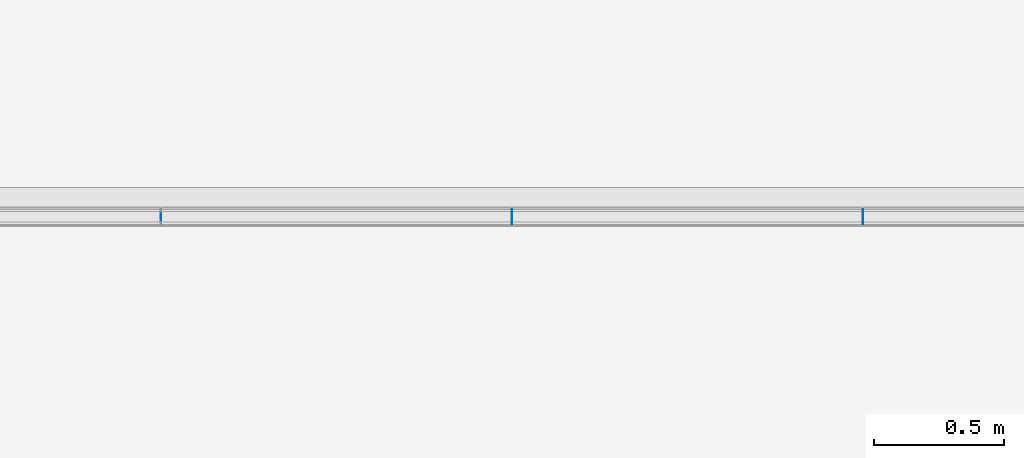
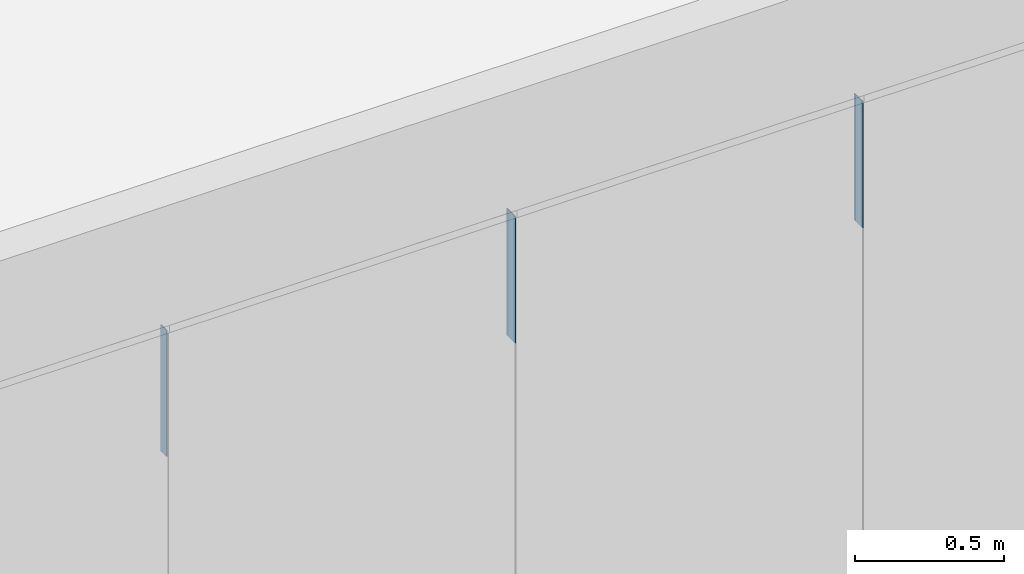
# One storey, part 31 of 89: 5 building element parts, 4 elements without a shape of their own.
"""IFC2X3 building model written with IfcOpenShell, lengths in millimetres."""

from ifc_helpers import new_model, entity, si_unit, converted_unit, derived_unit, money_unit, direction, frame, origin_with_axes, place, context, subcontext, project, spatial, faceted_brep, source, transform, mapped, material, type_object, element, aggregate, save


model = new_model("IFC2X3")

# Units and contexts
model_context = context("Model", 3, precision=0.01, world=origin_with_axes(), true_north=direction((0.0, 1.0)))
body_context = subcontext(model_context, "Body", "Model", "MODEL_VIEW")
ifc_project = project(units=[si_unit("LENGTHUNIT", "METRE", prefix="MILLI"), si_unit("AREAUNIT", "SQUARE_METRE"), si_unit("VOLUMEUNIT", "CUBIC_METRE"), converted_unit("PLANEANGLEUNIT", "DEGREE", entity("IfcPlaneAngleMeasure", 0.0174532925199), si_unit("PLANEANGLEUNIT", "RADIAN"), dimensions=[0, 0, 0, 0, 0, 0, 0]), si_unit("SOLIDANGLEUNIT", "STERADIAN"), money_unit("EUR"), converted_unit("TIMEUNIT", "Year", entity("IfcTimeMeasure", 31556926.0), si_unit("TIMEUNIT", "SECOND"), dimensions=[0, 0, 1, 0, 0, 0, 0]), si_unit("MASSUNIT", "GRAM", prefix="KILO"), si_unit("THERMODYNAMICTEMPERATUREUNIT", "DEGREE_CELSIUS"), si_unit("LUMINOUSINTENSITYUNIT", "LUMEN"), si_unit("ENERGYUNIT", "JOULE", prefix="MEGA"), derived_unit("THERMALCONDUCTANCEUNIT", [(si_unit("POWERUNIT", "WATT"), 1), (si_unit("LENGTHUNIT", "METRE"), -1), (si_unit("THERMODYNAMICTEMPERATUREUNIT", "KELVIN"), -1)]), derived_unit("SPECIFICHEATCAPACITYUNIT", [(si_unit("ENERGYUNIT", "JOULE"), 1), (si_unit("MASSUNIT", "GRAM", prefix="KILO"), -1), (si_unit("THERMODYNAMICTEMPERATUREUNIT", "KELVIN"), -1)]), derived_unit("MASSDENSITYUNIT", [(si_unit("MASSUNIT", "GRAM", prefix="KILO"), 1), (si_unit("VOLUMEUNIT", "CUBIC_METRE"), -1)])], contexts=[model_context])

# Site, building, storey
site_placement = place(None, origin_with_axes())
site = spatial("IfcSite", under=ifc_project, at=site_placement, Name="Puškini 31, Narva", CompositionType="ELEMENT")
building_placement = place(site_placement, origin_with_axes())
building = spatial("IfcBuilding", under=site, at=building_placement, Name="Narva Riigigümnaasium", CompositionType="ELEMENT")
storey_placement = place(building_placement, frame((0.0, 0.0, -3300.0), z_axis=(0.0, 0.0, 1.0), x_axis=(1.0, 0.0, 0.0)))
storey = spatial("IfcBuildingStorey", under=building, at=storey_placement, Name="1.korrus -3.3", CompositionType="ELEMENT", Elevation=-3300.0)

# Curtain wall, members, building element parts
curtain_wall_type = type_object("IfcCurtainWallType", Name="Curtain Wall Type", PredefinedType="NOTDEFINED")
curtain_wall_placement = place(storey_placement, frame((40014.000008, 243997.000057, -9.155864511e-06), z_axis=(0.0, 0.0, 1.0), x_axis=(1.0, 0.0, 0.0)))
curtain_wall = element("IfcCurtainWall", 1, at=curtain_wall_placement, inside=storey, type_object=curtain_wall_type, Name="G-SKLF-09")
member_type = type_object("IfcMemberType", Name="3 x 19", PredefinedType="MULLION")
member_1_placement = place(curtain_wall_placement, frame((2113.99999221, 0.0, 2400.00000716), z_axis=(0.0, 0.0, 1.0), x_axis=(-1.0, 0.0, 0.0)))
member_1 = element("IfcMember", 2, at=member_1_placement, type_object=member_type, Name="G-SKLF-09-raam", ObjectType="MULLION")
ifc_material_1 = material(Name="Klaas")
shared_shape_1 = source(origin_with_axes(), body_context, "Body", "Brep", [
    faceted_brep([(1.4999861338, 20.0064497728, 0.0), (1.4999861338, 20.0064497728, 519.999980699), (-1.5000138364, 20.0064497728, 519.999980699), (-1.5000138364, 20.0064497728, 0.0), (1.4999861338, 29.0064496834, 0.0), (1.4999861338, 29.0064496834, 519.999980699), (-1.5000138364, 29.0064496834, 519.999980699), (-1.5000138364, 29.0064496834, 0.0)], [[[0, 1, 2, 3]], [[4, 5, 1, 0]], [[1, 5, 6, 2]], [[3, 2, 6, 7]], [[0, 3, 7, 4]], [[7, 6, 5, 4]]]),
    faceted_brep([(1.4999861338, -19.993550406, 0.0), (1.4999861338, -19.993550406, 519.999980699), (1.4999861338, -28.9935503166, 519.999980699), (1.4999861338, -28.9935503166, 0.0), (-1.5000138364, -19.993550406, 0.0), (-1.5000138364, -19.993550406, 519.999980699), (-1.5000138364, -28.9935503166, 519.999980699), (-1.5000138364, -28.9935503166, 0.0)], [[[0, 1, 2, 3]], [[4, 5, 1, 0]], [[1, 5, 6, 2]], [[3, 2, 6, 7]], [[0, 3, 7, 4]], [[7, 6, 5, 4]]]),
])
building_element_part_1_placement = place(member_1_placement, origin_with_axes())
building_element_part_1 = element("IfcBuildingElementPart", 3, at=building_element_part_1_placement, material=ifc_material_1, Name="Klaas", context=body_context, shape_type="MappedRepresentation", body=[
    mapped(shared_shape_1, transform((0.0, 0.0, 0.0), x_axis=(-1.0, 0.0, 0.0), y_axis=(0.0, -1.0, 0.0), z_axis=(0.0, 0.0, 1.0))),
])
member_2_placement = place(curtain_wall_placement, frame((3463.99999221, 0.0, 2400.00000716), z_axis=(0.0, 0.0, 1.0), x_axis=(-1.0, 0.0, 0.0)))
member_2 = element("IfcMember", 4, at=member_2_placement, type_object=member_type, Name="G-SKLF-09-raam", ObjectType="MULLION")
building_element_part_2_placement = place(member_2_placement, origin_with_axes())
building_element_part_2 = element("IfcBuildingElementPart", 5, at=building_element_part_2_placement, material=ifc_material_1, Name="Klaas", context=body_context, shape_type="MappedRepresentation", body=[
    mapped(shared_shape_1, transform((0.0, 0.0, 0.0), x_axis=(-1.0, 0.0, 0.0), y_axis=(0.0, -1.0, 0.0), z_axis=(0.0, 0.0, 1.0))),
])
member_3_placement = place(curtain_wall_placement, frame((763.999992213, 0.0, 2400.00000716), z_axis=(0.0, 0.0, 1.0), x_axis=(-1.0, 0.0, 0.0)))
member_3 = element("IfcMember", 6, at=member_3_placement, type_object=member_type, Name="G-SKLF-09-raam", ObjectType="MULLION")
aggregate(curtain_wall, [member_3, member_1, member_2])
ifc_material_2 = material(Name="VKR-06_Õhkvahe")
shared_shape_2 = source(origin_with_axes(), body_context, "Body", "Brep", [
    faceted_brep([(1.4999861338, 20.0064496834, 0.0), (1.4999861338, 20.0064496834, 519.999980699), (1.4999861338, -19.9935503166, 519.999980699), (1.4999861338, -19.9935503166, 0.0), (-1.5000138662, 20.0064496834, 0.0), (-1.5000138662, 20.0064496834, 519.999980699), (-1.5000138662, -19.9935503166, 519.999980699), (-1.5000138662, -19.9935503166, 0.0)], [[[0, 1, 2, 3]], [[4, 5, 1, 0]], [[1, 5, 6, 2]], [[3, 2, 6, 7]], [[0, 3, 7, 4]], [[7, 6, 5, 4]]]),
])
building_element_part_3_placement = place(member_3_placement, origin_with_axes())
building_element_part_3 = element("IfcBuildingElementPart", 7, at=building_element_part_3_placement, material=ifc_material_2, Name="VKR-06_Õhkvahe", context=body_context, shape_type="MappedRepresentation", body=[
    mapped(shared_shape_2, transform((0.0, 0.0, 0.0), x_axis=(-1.0, 0.0, 0.0), y_axis=(0.0, -1.0, 0.0), z_axis=(0.0, 0.0, 1.0))),
])
aggregate(member_3, [building_element_part_3])
building_element_part_4_placement = place(member_1_placement, origin_with_axes())
building_element_part_4 = element("IfcBuildingElementPart", 8, at=building_element_part_4_placement, material=ifc_material_2, Name="VKR-06_Õhkvahe", context=body_context, shape_type="MappedRepresentation", body=[
    mapped(shared_shape_2, transform((0.0, 0.0, 0.0), x_axis=(-1.0, 0.0, 0.0), y_axis=(0.0, -1.0, 0.0), z_axis=(0.0, 0.0, 1.0))),
])
aggregate(member_1, [building_element_part_1, building_element_part_4])
building_element_part_5_placement = place(member_2_placement, origin_with_axes())
building_element_part_5 = element("IfcBuildingElementPart", 9, at=building_element_part_5_placement, material=ifc_material_2, Name="VKR-06_Õhkvahe", context=body_context, shape_type="MappedRepresentation", body=[
    mapped(shared_shape_2, transform((0.0, 0.0, 0.0), x_axis=(-1.0, 0.0, 0.0), y_axis=(0.0, -1.0, 0.0), z_axis=(0.0, 0.0, 1.0))),
])
aggregate(member_2, [building_element_part_2, building_element_part_5])

save(model, "model.ifc")
